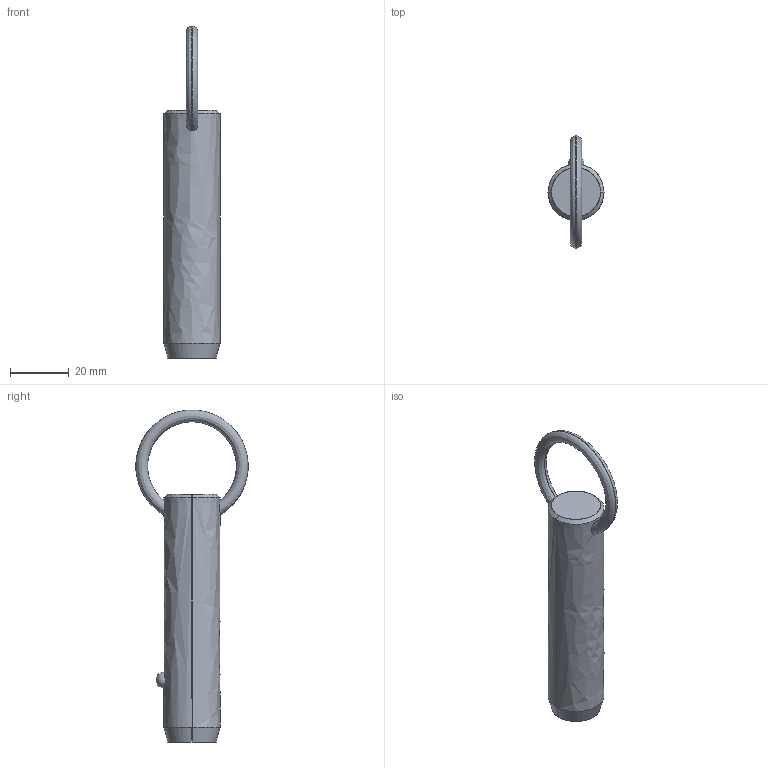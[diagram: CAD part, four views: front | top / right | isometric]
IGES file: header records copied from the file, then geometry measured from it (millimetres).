
Start section: SolidWorks IGES file using analytic representation for surfaces
Global section: file name: C:\Users\liam_\OneDrive\Documents\WORK\Work for WixRoyd\Job Files\J-00019 - Matt Davis CAD Checking\04. CAD Drawings\automotion20190605\P1250.2_v2\P1250.2_v2_20190729_IGES\P1250.075-200.igs; native system: SolidWorks 2017; preprocessor: SolidWorks 2017; author: liam_; date: 190729.234903; units: millimetre
Bounding box: 19 x 38.1 x 112.59 mm (x, y, z)
Surface area: 6546.8 mm2 (no closed solid volume)
Topology: 0 solids, 0 shells, 12 faces, 294 edges, 292 vertices
Faces by surface type: revolution 8, bspline 4
